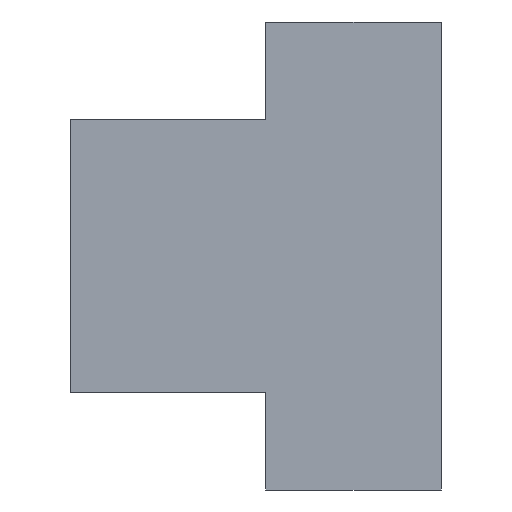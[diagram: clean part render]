
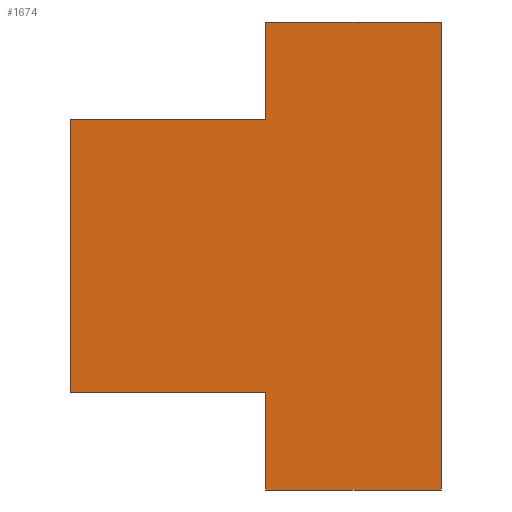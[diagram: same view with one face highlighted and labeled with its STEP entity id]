
A CAD part, left-side view. The second image highlights one B-rep face of the part: STEP entity #1674.
In plain terms, the highlighted planar face has unit normal (-1, 0, 0).
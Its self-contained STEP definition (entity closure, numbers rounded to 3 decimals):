
#57=CARTESIAN_POINT('Line Origine',(0.,0.,0.)) ;
#61=CARTESIAN_POINT('Vertex',(0.,0.,12.)) ;
#63=CARTESIAN_POINT('Vertex',(0.,0.,-12.)) ;
#1612=CARTESIAN_POINT('Axis2P3D Location',(0.,0.,-0.)) ;
#1617=CARTESIAN_POINT('Line Origine',(0.,9.,9.5)) ;
#1621=CARTESIAN_POINT('Vertex',(0.,9.,7.)) ;
#1623=CARTESIAN_POINT('Vertex',(0.,9.,12.)) ;
#1626=CARTESIAN_POINT('Line Origine',(0.,14.,7.)) ;
#1630=CARTESIAN_POINT('Vertex',(0.,19.,7.)) ;
#1633=CARTESIAN_POINT('Line Origine',(0.,19.,0.)) ;
#1637=CARTESIAN_POINT('Vertex',(0.,19.,-7.)) ;
#1640=CARTESIAN_POINT('Line Origine',(0.,14.,-7.)) ;
#1644=CARTESIAN_POINT('Vertex',(0.,9.,-7.)) ;
#1647=CARTESIAN_POINT('Line Origine',(0.,9.,-9.5)) ;
#1651=CARTESIAN_POINT('Vertex',(0.,9.,-12.)) ;
#1654=CARTESIAN_POINT('Line Origine',(0.,4.5,-12.)) ;
#1659=CARTESIAN_POINT('Line Origine',(0.,4.5,12.)) ;
#58=DIRECTION('Vector Direction',(0.,0.,-1.)) ;
#1613=DIRECTION('Axis2P3D Direction',(1.,0.,-0.)) ;
#1614=DIRECTION('Axis2P3D XDirection',(-0.,0.,-1.)) ;
#1618=DIRECTION('Vector Direction',(0.,0.,1.)) ;
#1627=DIRECTION('Vector Direction',(0.,-1.,0.)) ;
#1634=DIRECTION('Vector Direction',(0.,0.,1.)) ;
#1641=DIRECTION('Vector Direction',(0.,1.,0.)) ;
#1648=DIRECTION('Vector Direction',(0.,0.,1.)) ;
#1655=DIRECTION('Vector Direction',(0.,1.,0.)) ;
#1660=DIRECTION('Vector Direction',(0.,-1.,0.)) ;
#1615=AXIS2_PLACEMENT_3D('Plane Axis2P3D',#1612,#1613,#1614) ;
#1665=ORIENTED_EDGE('',*,*,#1625,.F.) ;
#1666=ORIENTED_EDGE('',*,*,#1632,.F.) ;
#1667=ORIENTED_EDGE('',*,*,#1639,.F.) ;
#1668=ORIENTED_EDGE('',*,*,#1646,.F.) ;
#1669=ORIENTED_EDGE('',*,*,#1653,.F.) ;
#1670=ORIENTED_EDGE('',*,*,#1658,.F.) ;
#1671=ORIENTED_EDGE('',*,*,#65,.F.) ;
#1672=ORIENTED_EDGE('',*,*,#1663,.F.) ;
#59=VECTOR('Line Direction',#58,1.) ;
#1619=VECTOR('Line Direction',#1618,1.) ;
#1628=VECTOR('Line Direction',#1627,1.) ;
#1635=VECTOR('Line Direction',#1634,1.) ;
#1642=VECTOR('Line Direction',#1641,1.) ;
#1649=VECTOR('Line Direction',#1648,1.) ;
#1656=VECTOR('Line Direction',#1655,1.) ;
#1661=VECTOR('Line Direction',#1660,1.) ;
#1674=ADVANCED_FACE('CF-GT-09-500',(#1673),#1616,.F.) ;
#65=EDGE_CURVE('',#62,#64,#60,.T.) ;
#1625=EDGE_CURVE('',#1622,#1624,#1620,.T.) ;
#1632=EDGE_CURVE('',#1631,#1622,#1629,.T.) ;
#1639=EDGE_CURVE('',#1638,#1631,#1636,.T.) ;
#1646=EDGE_CURVE('',#1645,#1638,#1643,.T.) ;
#1653=EDGE_CURVE('',#1652,#1645,#1650,.T.) ;
#1658=EDGE_CURVE('',#64,#1652,#1657,.T.) ;
#1663=EDGE_CURVE('',#1624,#62,#1662,.T.) ;
#1664=EDGE_LOOP('',(#1665,#1666,#1667,#1668,#1669,#1670,#1671,#1672)) ;
#1673=FACE_OUTER_BOUND('',#1664,.T.) ;
#60=LINE('Line',#57,#59) ;
#1620=LINE('Line',#1617,#1619) ;
#1629=LINE('Line',#1626,#1628) ;
#1636=LINE('Line',#1633,#1635) ;
#1643=LINE('Line',#1640,#1642) ;
#1650=LINE('Line',#1647,#1649) ;
#1657=LINE('Line',#1654,#1656) ;
#1662=LINE('Line',#1659,#1661) ;
#1616=PLANE('Plane',#1615) ;
#62=VERTEX_POINT('',#61) ;
#64=VERTEX_POINT('',#63) ;
#1622=VERTEX_POINT('',#1621) ;
#1624=VERTEX_POINT('',#1623) ;
#1631=VERTEX_POINT('',#1630) ;
#1638=VERTEX_POINT('',#1637) ;
#1645=VERTEX_POINT('',#1644) ;
#1652=VERTEX_POINT('',#1651) ;
